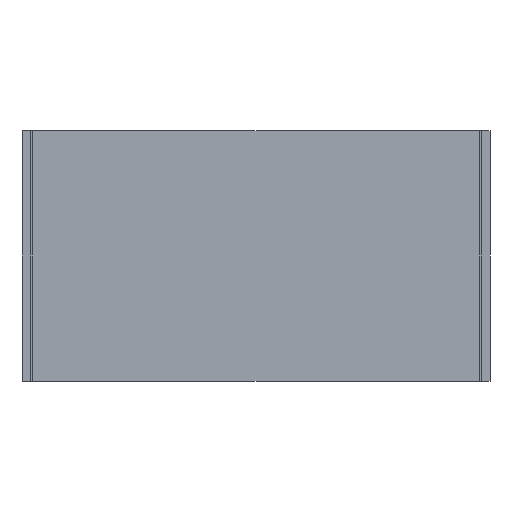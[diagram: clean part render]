
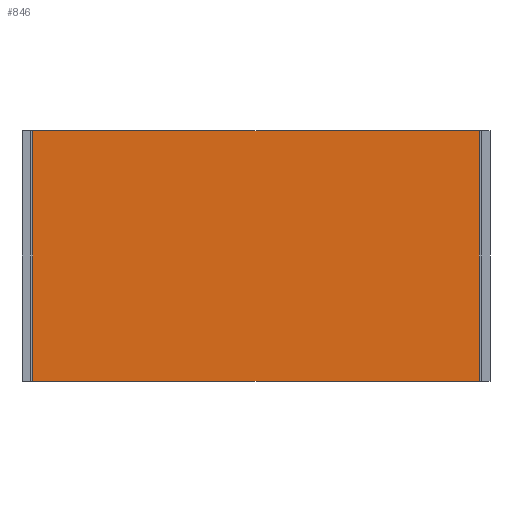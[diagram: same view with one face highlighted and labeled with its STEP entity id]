
A CAD part, front view. The second image highlights one B-rep face of the part: STEP entity #846.
In plain terms, the highlighted planar face has unit normal (0, -1, 0).
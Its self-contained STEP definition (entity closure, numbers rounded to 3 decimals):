
#34 = ORIENTED_EDGE ( 'NONE', *, *, #105, .T. ) ;
#70 = ORIENTED_EDGE ( 'NONE', *, *, #1535, .T. ) ;
#105 = EDGE_CURVE ( 'NONE', #619, #220, #754, .T. ) ;
#117 = LINE ( 'NONE', #1545, #247 ) ;
#129 = VECTOR ( 'NONE', #1123, 1000. ) ;
#153 = PLANE ( 'NONE',  #1021 ) ;
#220 = VERTEX_POINT ( 'NONE', #1169 ) ;
#227 = DIRECTION ( 'NONE',  ( 1., 0., 0. ) ) ;
#247 = VECTOR ( 'NONE', #227, 1000. ) ;
#297 = EDGE_CURVE ( 'NONE', #619, #383, #117, .T. ) ;
#355 = VECTOR ( 'NONE', #1192, 1000. ) ;
#374 = CARTESIAN_POINT ( 'NONE',  ( -165.1, -68.25, 92.5 ) ) ;
#383 = VERTEX_POINT ( 'NONE', #578 ) ;
#473 = CARTESIAN_POINT ( 'NONE',  ( 165.1, -68.25, -92.5 ) ) ;
#506 = FACE_OUTER_BOUND ( 'NONE', #1540, .T. ) ;
#578 = CARTESIAN_POINT ( 'NONE',  ( 165.1, -68.25, 92.5 ) ) ;
#584 = CARTESIAN_POINT ( 'NONE',  ( -165.1, -68.25, -92.5 ) ) ;
#617 = ORIENTED_EDGE ( 'NONE', *, *, #765, .F. ) ;
#619 = VERTEX_POINT ( 'NONE', #374 ) ;
#650 = DIRECTION ( 'NONE',  ( 0., 1., 0. ) ) ;
#711 = CARTESIAN_POINT ( 'NONE',  ( 165.1, -68.25, 92.5 ) ) ;
#754 = LINE ( 'NONE', #1006, #129 ) ;
#765 = EDGE_CURVE ( 'NONE', #383, #840, #1223, .T. ) ;
#840 = VERTEX_POINT ( 'NONE', #473 ) ;
#846 = ADVANCED_FACE ( 'NONE', ( #506 ), #153, .F. ) ;
#868 = ORIENTED_EDGE ( 'NONE', *, *, #297, .F. ) ;
#965 = LINE ( 'NONE', #584, #355 ) ;
#1005 = DIRECTION ( 'NONE',  ( -1., 0., 0. ) ) ;
#1006 = CARTESIAN_POINT ( 'NONE',  ( -165.1, -68.25, 92.5 ) ) ;
#1011 = CARTESIAN_POINT ( 'NONE',  ( -165.1, -68.25, 92.5 ) ) ;
#1021 = AXIS2_PLACEMENT_3D ( 'NONE', #1011, #650, #1005 ) ;
#1085 = VECTOR ( 'NONE', #1536, 1000. ) ;
#1123 = DIRECTION ( 'NONE',  ( 0., 0., -1. ) ) ;
#1169 = CARTESIAN_POINT ( 'NONE',  ( -165.1, -68.25, -92.5 ) ) ;
#1192 = DIRECTION ( 'NONE',  ( 1., 0., 0. ) ) ;
#1223 = LINE ( 'NONE', #711, #1085 ) ;
#1535 = EDGE_CURVE ( 'NONE', #220, #840, #965, .T. ) ;
#1536 = DIRECTION ( 'NONE',  ( 0., 0., -1. ) ) ;
#1540 = EDGE_LOOP ( 'NONE', ( #70, #617, #868, #34 ) ) ;
#1545 = CARTESIAN_POINT ( 'NONE',  ( -165.1, -68.25, 92.5 ) ) ;
